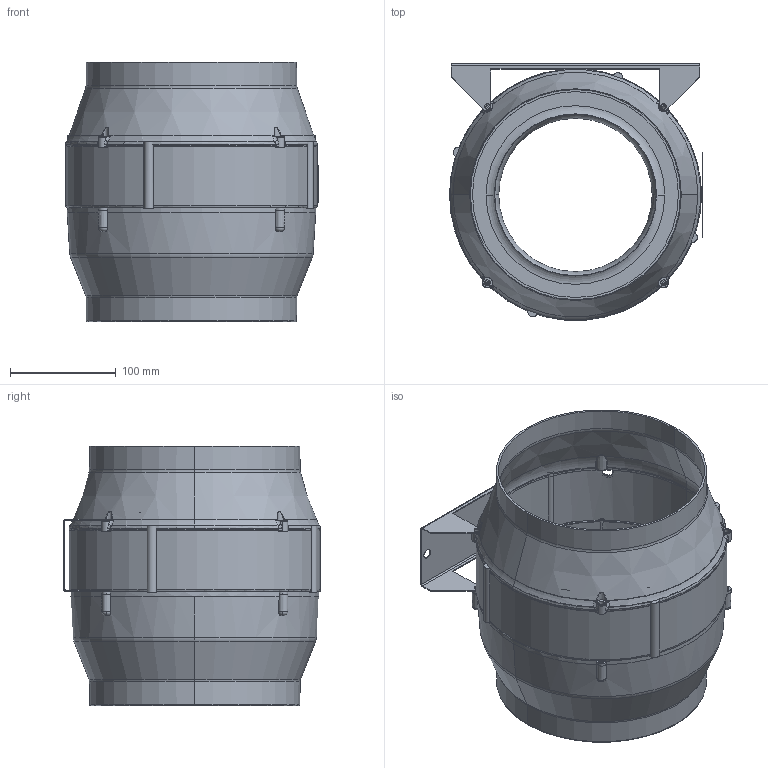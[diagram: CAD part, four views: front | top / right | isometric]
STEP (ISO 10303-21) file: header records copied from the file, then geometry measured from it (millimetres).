
FILE_DESCRIPTION (( 'STEP AP203' ), '1' );
FILE_NAME ('121747-01_EL200LE2M01.STEP', '2013-10-07T08:47:43', ( '' ), ( '' ), 'SwSTEP 2.0', 'SolidWorks 2012', '' );
FILE_SCHEMA (( 'CONFIG_CONTROL_DESIGN' ));
Length unit declared in the file: millimetre
Products named in the file (1): 121747-01_EL200LE2M01
Bounding box: 239.16 x 242.77 x 245 mm (x, y, z)
Surface area: 429452.6 mm2 (no closed solid volume)
Topology: 0 solids, 19 shells, 389 faces, 1438 edges, 1039 vertices
Faces by surface type: cylinder 110, bspline 73, torus 72, plane 71, cone 63
Entity records: 21626 total; most frequent: CARTESIAN_POINT 10301, ORIENTED_EDGE 2337, DIRECTION 2147, EDGE_CURVE 1438, VERTEX_POINT 1039, AXIS2_PLACEMENT_3D 892, CIRCLE 575, B_SPLINE_CURVE_WITH_KNOTS 490
